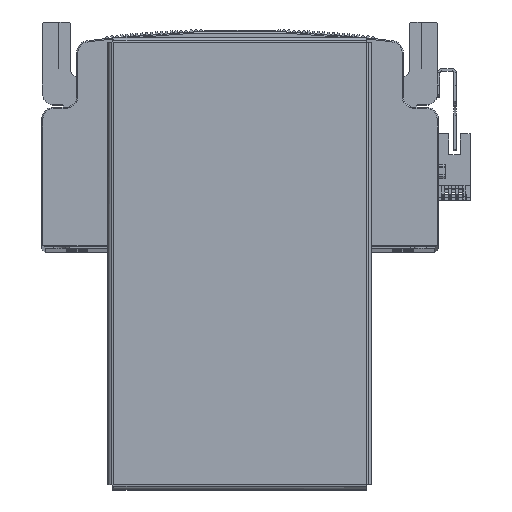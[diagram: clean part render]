
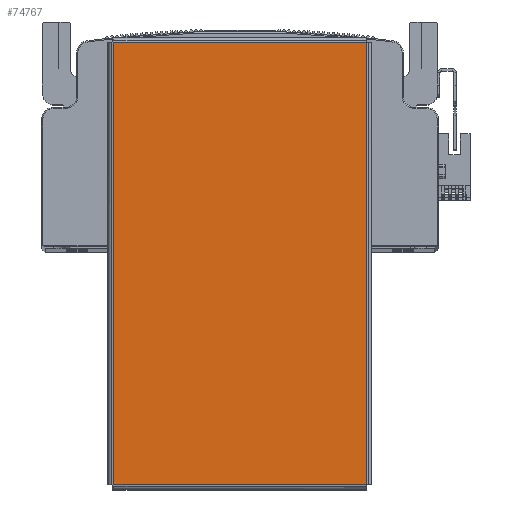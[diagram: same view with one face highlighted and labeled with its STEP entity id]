
A CAD part, top view. The second image highlights one B-rep face of the part: STEP entity #74767.
In plain terms, the highlighted planar face has unit normal (0, 0, 1) as drawn and (0, -1, 0) by its records, which use the part's own axes.
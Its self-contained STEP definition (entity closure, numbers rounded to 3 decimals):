
#5348 = AXIS2_PLACEMENT_3D ( 'NONE', #22558, #22527, #22560 ) ;
#7374 = FACE_OUTER_BOUND ( 'NONE', #46757, .T. ) ;
#12135 = ORIENTED_EDGE ( 'NONE', *, *, #51165, .T. ) ;
#12152 = ORIENTED_EDGE ( 'NONE', *, *, #51069, .T. ) ;
#12198 = ORIENTED_EDGE ( 'NONE', *, *, #51086, .T. ) ;
#12230 = ORIENTED_EDGE ( 'NONE', *, *, #51171, .T. ) ;
#22527 = DIRECTION ( 'NONE',  ( 0., 1., 0. ) ) ;
#22557 = PLANE ( 'NONE',  #5348 ) ;
#22558 = CARTESIAN_POINT ( 'NONE',  ( 0., -1.5, 0. ) ) ;
#22560 = DIRECTION ( 'NONE',  ( 0., 0., 1. ) ) ;
#46757 = EDGE_LOOP ( 'NONE', ( #12152, #12198, #12230, #12135 ) ) ;
#51069 = EDGE_CURVE ( 'NONE', #52939, #52931, #65616, .T. ) ;
#51086 = EDGE_CURVE ( 'NONE', #52931, #52930, #65657, .T. ) ;
#51165 = EDGE_CURVE ( 'NONE', #52942, #52939, #65759, .T. ) ;
#51171 = EDGE_CURVE ( 'NONE', #52930, #52942, #65790, .T. ) ;
#52930 = VERTEX_POINT ( 'NONE', #59254 ) ;
#52931 = VERTEX_POINT ( 'NONE', #59292 ) ;
#52939 = VERTEX_POINT ( 'NONE', #59258 ) ;
#52942 = VERTEX_POINT ( 'NONE', #59286 ) ;
#59254 = CARTESIAN_POINT ( 'NONE',  ( -94.763, -1.5, -54.363 ) ) ;
#59258 = CARTESIAN_POINT ( 'NONE',  ( 94.763, -1.5, 54.363 ) ) ;
#59286 = CARTESIAN_POINT ( 'NONE',  ( 94.763, -1.5, -54.363 ) ) ;
#59292 = CARTESIAN_POINT ( 'NONE',  ( -94.763, -1.5, 54.363 ) ) ;
#60881 = CARTESIAN_POINT ( 'NONE',  ( 94.793, -1.5, 54.363 ) ) ;
#60919 = DIRECTION ( 'NONE',  ( -1., 0., 0. ) ) ;
#60922 = DIRECTION ( 'NONE',  ( 0., 0., -1. ) ) ;
#60949 = CARTESIAN_POINT ( 'NONE',  ( -94.763, -1.5, 54.393 ) ) ;
#61139 = CARTESIAN_POINT ( 'NONE',  ( 94.763, -1.5, -54.393 ) ) ;
#61152 = CARTESIAN_POINT ( 'NONE',  ( -94.793, -1.5, -54.363 ) ) ;
#61162 = DIRECTION ( 'NONE',  ( 1., 0., 0. ) ) ;
#61169 = DIRECTION ( 'NONE',  ( 0., 0., 1. ) ) ;
#65599 = VECTOR ( 'NONE', #60919, 1000. ) ;
#65616 = LINE ( 'NONE', #60881, #65599 ) ;
#65657 = LINE ( 'NONE', #60949, #65659 ) ;
#65659 = VECTOR ( 'NONE', #60922, 1000. ) ;
#65759 = LINE ( 'NONE', #61139, #65808 ) ;
#65771 = VECTOR ( 'NONE', #61162, 1000. ) ;
#65790 = LINE ( 'NONE', #61152, #65771 ) ;
#65808 = VECTOR ( 'NONE', #61169, 1000. ) ;
#74767 = ADVANCED_FACE ( 'NONE', ( #7374 ), #22557, .F. ) ;
